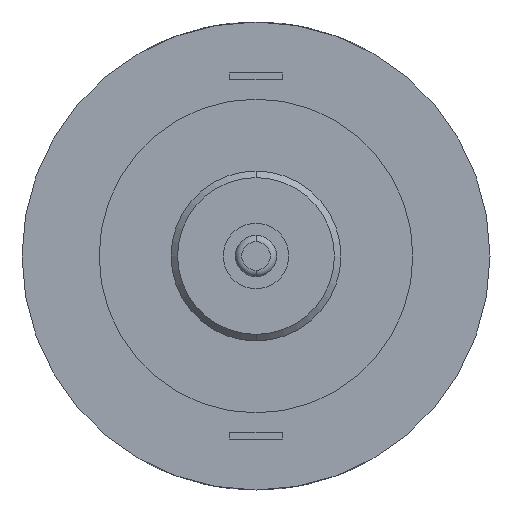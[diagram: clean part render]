
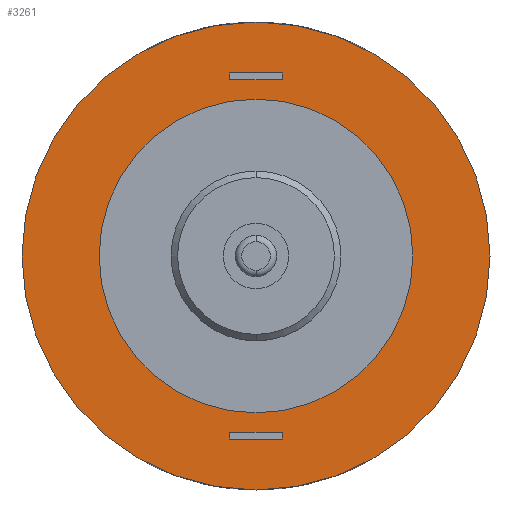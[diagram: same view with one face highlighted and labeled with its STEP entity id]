
A CAD part, front view. The second image highlights one B-rep face of the part: STEP entity #3261.
In plain terms, the highlighted planar face has unit normal (0, -1, 0).
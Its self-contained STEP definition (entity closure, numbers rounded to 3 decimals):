
#27 = EDGE_CURVE ( 'NONE', #788, #954, #2051, .T. ) ;
#44 = VERTEX_POINT ( 'NONE', #2945 ) ;
#61 = CARTESIAN_POINT ( 'NONE',  ( 2., 0., 14. ) ) ;
#107 = CARTESIAN_POINT ( 'NONE',  ( -2., 0., 13.5 ) ) ;
#186 = EDGE_CURVE ( 'NONE', #954, #2328, #2807, .T. ) ;
#288 = VERTEX_POINT ( 'NONE', #2981 ) ;
#325 = AXIS2_PLACEMENT_3D ( 'NONE', #2171, #1253, #3636 ) ;
#399 = CARTESIAN_POINT ( 'NONE',  ( 0., 0., 0. ) ) ;
#408 = CIRCLE ( 'NONE', #851, 17.9 ) ;
#409 = LINE ( 'NONE', #3678, #605 ) ;
#432 = CARTESIAN_POINT ( 'NONE',  ( 0., 0., 0. ) ) ;
#464 = DIRECTION ( 'NONE',  ( 1., 0., 0. ) ) ;
#578 = CARTESIAN_POINT ( 'NONE',  ( -2., 0., -13.5 ) ) ;
#605 = VECTOR ( 'NONE', #1594, 1000. ) ;
#691 = DIRECTION ( 'NONE',  ( 0., 0., -1. ) ) ;
#734 = CARTESIAN_POINT ( 'NONE',  ( 2., 0., -14. ) ) ;
#762 = LINE ( 'NONE', #2167, #3198 ) ;
#777 = EDGE_CURVE ( 'NONE', #3421, #788, #409, .T. ) ;
#788 = VERTEX_POINT ( 'NONE', #3336 ) ;
#851 = AXIS2_PLACEMENT_3D ( 'NONE', #1137, #2385, #1491 ) ;
#918 = ORIENTED_EDGE ( 'NONE', *, *, #1438, .T. ) ;
#954 = VERTEX_POINT ( 'NONE', #3471 ) ;
#1022 = ORIENTED_EDGE ( 'NONE', *, *, #2622, .F. ) ;
#1023 = ORIENTED_EDGE ( 'NONE', *, *, #3028, .F. ) ;
#1081 = LINE ( 'NONE', #734, #1587 ) ;
#1137 = CARTESIAN_POINT ( 'NONE',  ( 0., 0., 0. ) ) ;
#1185 = FACE_BOUND ( 'NONE', #1469, .T. ) ;
#1203 = DIRECTION ( 'NONE',  ( 0., 0., 1. ) ) ;
#1228 = EDGE_CURVE ( 'NONE', #1470, #1413, #3298, .T. ) ;
#1253 = DIRECTION ( 'NONE',  ( 0., -1., 0. ) ) ;
#1272 = AXIS2_PLACEMENT_3D ( 'NONE', #2974, #2602, #1203 ) ;
#1282 = DIRECTION ( 'NONE',  ( 0., -1., 0. ) ) ;
#1334 = DIRECTION ( 'NONE',  ( -1., 0., 0. ) ) ;
#1388 = EDGE_CURVE ( 'NONE', #2328, #3421, #1081, .T. ) ;
#1413 = VERTEX_POINT ( 'NONE', #1937 ) ;
#1438 = EDGE_CURVE ( 'NONE', #2267, #44, #408, .T. ) ;
#1469 = EDGE_LOOP ( 'NONE', ( #3700, #1825 ) ) ;
#1470 = VERTEX_POINT ( 'NONE', #3502 ) ;
#1491 = DIRECTION ( 'NONE',  ( 0., 0., -1. ) ) ;
#1536 = LINE ( 'NONE', #61, #3750 ) ;
#1537 = EDGE_LOOP ( 'NONE', ( #918, #2541 ) ) ;
#1552 = CARTESIAN_POINT ( 'NONE',  ( 2., 0., 13.5 ) ) ;
#1587 = VECTOR ( 'NONE', #464, 1000. ) ;
#1594 = DIRECTION ( 'NONE',  ( 0., 0., 1. ) ) ;
#1603 = EDGE_CURVE ( 'NONE', #44, #2267, #1677, .T. ) ;
#1618 = CARTESIAN_POINT ( 'NONE',  ( 0., 0., -12. ) ) ;
#1653 = ORIENTED_EDGE ( 'NONE', *, *, #777, .F. ) ;
#1677 = CIRCLE ( 'NONE', #325, 17.9 ) ;
#1684 = VERTEX_POINT ( 'NONE', #2421 ) ;
#1754 = DIRECTION ( 'NONE',  ( -1., 0., 0. ) ) ;
#1807 = CARTESIAN_POINT ( 'NONE',  ( -2., 0., -14. ) ) ;
#1825 = ORIENTED_EDGE ( 'NONE', *, *, #2534, .F. ) ;
#1932 = EDGE_LOOP ( 'NONE', ( #3185, #1023, #1022, #2115 ) ) ;
#1937 = CARTESIAN_POINT ( 'NONE',  ( 2., 0., 14. ) ) ;
#1940 = VECTOR ( 'NONE', #1754, 1000. ) ;
#2039 = CARTESIAN_POINT ( 'NONE',  ( -2., 0., 13.5 ) ) ;
#2051 = LINE ( 'NONE', #578, #1940 ) ;
#2061 = FACE_BOUND ( 'NONE', #1932, .T. ) ;
#2115 = ORIENTED_EDGE ( 'NONE', *, *, #2520, .F. ) ;
#2167 = CARTESIAN_POINT ( 'NONE',  ( -2., 0., 14. ) ) ;
#2171 = CARTESIAN_POINT ( 'NONE',  ( 0., 0., 0. ) ) ;
#2175 = DIRECTION ( 'NONE',  ( 0., 0., 1. ) ) ;
#2223 = DIRECTION ( 'NONE',  ( 0., -1., 0. ) ) ;
#2267 = VERTEX_POINT ( 'NONE', #3546 ) ;
#2288 = VERTEX_POINT ( 'NONE', #2039 ) ;
#2328 = VERTEX_POINT ( 'NONE', #1807 ) ;
#2335 = CIRCLE ( 'NONE', #2451, 12. ) ;
#2356 = PLANE ( 'NONE',  #1272 ) ;
#2385 = DIRECTION ( 'NONE',  ( 0., -1., 0. ) ) ;
#2411 = ORIENTED_EDGE ( 'NONE', *, *, #27, .F. ) ;
#2421 = CARTESIAN_POINT ( 'NONE',  ( -2., 0., 14. ) ) ;
#2451 = AXIS2_PLACEMENT_3D ( 'NONE', #432, #1282, #3371 ) ;
#2466 = VECTOR ( 'NONE', #3081, 1000. ) ;
#2517 = CARTESIAN_POINT ( 'NONE',  ( -2., 0., -14. ) ) ;
#2520 = EDGE_CURVE ( 'NONE', #1413, #1684, #1536, .T. ) ;
#2534 = EDGE_CURVE ( 'NONE', #288, #2592, #3079, .T. ) ;
#2541 = ORIENTED_EDGE ( 'NONE', *, *, #1603, .T. ) ;
#2592 = VERTEX_POINT ( 'NONE', #1618 ) ;
#2602 = DIRECTION ( 'NONE',  ( 0., 1., 0. ) ) ;
#2622 = EDGE_CURVE ( 'NONE', #1684, #2288, #762, .T. ) ;
#2749 = ORIENTED_EDGE ( 'NONE', *, *, #1388, .F. ) ;
#2807 = LINE ( 'NONE', #2517, #2466 ) ;
#2945 = CARTESIAN_POINT ( 'NONE',  ( 0., 0., 17.9 ) ) ;
#2974 = CARTESIAN_POINT ( 'NONE',  ( 0., 0., 0. ) ) ;
#2981 = CARTESIAN_POINT ( 'NONE',  ( 0., 0., 12. ) ) ;
#3003 = CARTESIAN_POINT ( 'NONE',  ( 2., 0., -14. ) ) ;
#3018 = DIRECTION ( 'NONE',  ( 1., 0., 0. ) ) ;
#3028 = EDGE_CURVE ( 'NONE', #2288, #1470, #3052, .T. ) ;
#3043 = EDGE_CURVE ( 'NONE', #2592, #288, #2335, .T. ) ;
#3052 = LINE ( 'NONE', #107, #3383 ) ;
#3079 = CIRCLE ( 'NONE', #3568, 12. ) ;
#3081 = DIRECTION ( 'NONE',  ( 0., 0., -1. ) ) ;
#3185 = ORIENTED_EDGE ( 'NONE', *, *, #1228, .F. ) ;
#3195 = VECTOR ( 'NONE', #2175, 1000. ) ;
#3198 = VECTOR ( 'NONE', #3668, 1000. ) ;
#3238 = FACE_BOUND ( 'NONE', #3681, .T. ) ;
#3261 = ADVANCED_FACE ( 'NONE', ( #1185, #3238, #2061, #3816 ), #2356, .F. ) ;
#3298 = LINE ( 'NONE', #1552, #3195 ) ;
#3336 = CARTESIAN_POINT ( 'NONE',  ( 2., 0., -13.5 ) ) ;
#3371 = DIRECTION ( 'NONE',  ( 0., 0., -1. ) ) ;
#3383 = VECTOR ( 'NONE', #3018, 1000. ) ;
#3421 = VERTEX_POINT ( 'NONE', #3003 ) ;
#3471 = CARTESIAN_POINT ( 'NONE',  ( -2., 0., -13.5 ) ) ;
#3485 = ORIENTED_EDGE ( 'NONE', *, *, #186, .F. ) ;
#3502 = CARTESIAN_POINT ( 'NONE',  ( 2., 0., 13.5 ) ) ;
#3546 = CARTESIAN_POINT ( 'NONE',  ( 0., 0., -17.9 ) ) ;
#3568 = AXIS2_PLACEMENT_3D ( 'NONE', #399, #2223, #691 ) ;
#3636 = DIRECTION ( 'NONE',  ( 0., 0., -1. ) ) ;
#3668 = DIRECTION ( 'NONE',  ( 0., 0., -1. ) ) ;
#3678 = CARTESIAN_POINT ( 'NONE',  ( 2., 0., -13.5 ) ) ;
#3681 = EDGE_LOOP ( 'NONE', ( #2411, #1653, #2749, #3485 ) ) ;
#3700 = ORIENTED_EDGE ( 'NONE', *, *, #3043, .F. ) ;
#3750 = VECTOR ( 'NONE', #1334, 1000. ) ;
#3816 = FACE_OUTER_BOUND ( 'NONE', #1537, .T. ) ;
